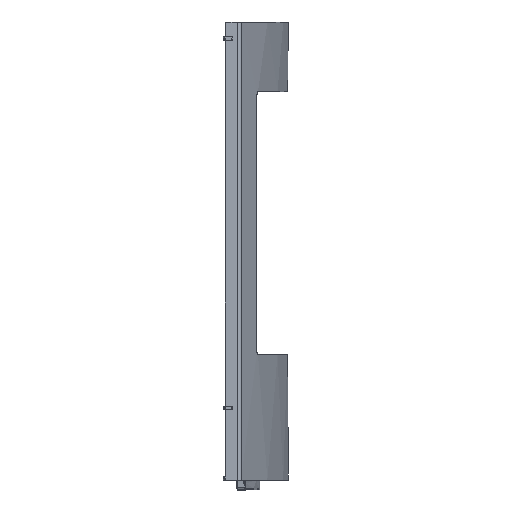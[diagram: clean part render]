
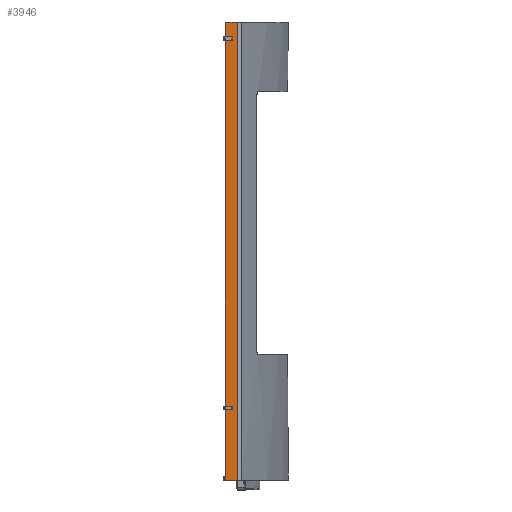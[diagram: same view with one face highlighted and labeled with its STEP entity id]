
A CAD part, left-side view. The second image highlights one B-rep face of the part: STEP entity #3946.
In plain terms, the highlighted planar face has unit normal (-1, 0, 0).
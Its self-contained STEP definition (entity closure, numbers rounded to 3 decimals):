
#188 = EDGE_CURVE ( 'NONE', #5165, #451, #13743, .T. ) ;
#415 = VECTOR ( 'NONE', #1103, 1000. ) ;
#438 = CARTESIAN_POINT ( 'NONE',  ( -333., -147., 88.55 ) ) ;
#451 = VERTEX_POINT ( 'NONE', #10259 ) ;
#475 = DIRECTION ( 'NONE',  ( 0., -1., 0. ) ) ;
#770 = DIRECTION ( 'NONE',  ( 0., 1., 0. ) ) ;
#939 = CARTESIAN_POINT ( 'NONE',  ( -333., -147., 550. ) ) ;
#1103 = DIRECTION ( 'NONE',  ( 0., 0., -1. ) ) ;
#1239 = CARTESIAN_POINT ( 'NONE',  ( -333., -155.25, 84.3 ) ) ;
#1406 = CARTESIAN_POINT ( 'NONE',  ( -333., -150., 550. ) ) ;
#1436 = EDGE_CURVE ( 'NONE', #10567, #1754, #12814, .T. ) ;
#1531 = LINE ( 'NONE', #11917, #13662 ) ;
#1605 = DIRECTION ( 'NONE',  ( 0., 1., 0. ) ) ;
#1717 = LINE ( 'NONE', #7807, #3161 ) ;
#1754 = VERTEX_POINT ( 'NONE', #10906 ) ;
#1886 = CARTESIAN_POINT ( 'NONE',  ( -333., -150., 547. ) ) ;
#1918 = VERTEX_POINT ( 'NONE', #2046 ) ;
#1936 = ORIENTED_EDGE ( 'NONE', *, *, #4998, .T. ) ;
#2046 = CARTESIAN_POINT ( 'NONE',  ( -333., -155.25, 532.25 ) ) ;
#2228 = VERTEX_POINT ( 'NONE', #12729 ) ;
#2342 = DIRECTION ( 'NONE',  ( 0., 0., 1. ) ) ;
#2397 = VECTOR ( 'NONE', #11450, 1000. ) ;
#2465 = VECTOR ( 'NONE', #1605, 1000. ) ;
#2813 = CARTESIAN_POINT ( 'NONE',  ( -333., -147., 88.55 ) ) ;
#2962 = EDGE_CURVE ( 'NONE', #1918, #9678, #14199, .T. ) ;
#3161 = VECTOR ( 'NONE', #11464, 1000. ) ;
#3342 = VECTOR ( 'NONE', #475, 1000. ) ;
#3473 = LINE ( 'NONE', #10351, #415 ) ;
#3609 = ORIENTED_EDGE ( 'NONE', *, *, #7296, .F. ) ;
#3660 = EDGE_CURVE ( 'NONE', #451, #9678, #12128, .T. ) ;
#3851 = FACE_OUTER_BOUND ( 'NONE', #6658, .T. ) ;
#3946 = ADVANCED_FACE ( 'NONE', ( #3851 ), #6481, .F. ) ;
#4176 = DIRECTION ( 'NONE',  ( 0., 0., -1. ) ) ;
#4221 = CARTESIAN_POINT ( 'NONE',  ( -333., -147., 550. ) ) ;
#4961 = EDGE_CURVE ( 'NONE', #6770, #2228, #3473, .T. ) ;
#4998 = EDGE_CURVE ( 'NONE', #8479, #9053, #8817, .T. ) ;
#5058 = LINE ( 'NONE', #4221, #6826 ) ;
#5165 = VERTEX_POINT ( 'NONE', #1406 ) ;
#5350 = VECTOR ( 'NONE', #10389, 1000. ) ;
#5736 = CARTESIAN_POINT ( 'NONE',  ( -333., -147., 0. ) ) ;
#5849 = ORIENTED_EDGE ( 'NONE', *, *, #188, .T. ) ;
#6010 = VECTOR ( 'NONE', #12054, 1000. ) ;
#6145 = AXIS2_PLACEMENT_3D ( 'NONE', #1886, #9916, #770 ) ;
#6191 = DIRECTION ( 'NONE',  ( 0., 0., 1. ) ) ;
#6481 = PLANE ( 'NONE',  #14667 ) ;
#6551 = ORIENTED_EDGE ( 'NONE', *, *, #9042, .T. ) ;
#6570 = VERTEX_POINT ( 'NONE', #2813 ) ;
#6658 = EDGE_LOOP ( 'NONE', ( #9961, #8210, #1936, #6551, #10322, #12602, #5849, #12078, #14217, #3609, #8156, #11428, #10832 ) ) ;
#6770 = VERTEX_POINT ( 'NONE', #11006 ) ;
#6826 = VECTOR ( 'NONE', #4176, 1000. ) ;
#7249 = CARTESIAN_POINT ( 'NONE',  ( -333., -147., 84.3 ) ) ;
#7296 = EDGE_CURVE ( 'NONE', #10445, #1918, #1531, .T. ) ;
#7313 = EDGE_CURVE ( 'NONE', #10502, #10445, #11885, .T. ) ;
#7405 = EDGE_CURVE ( 'NONE', #8479, #10567, #9764, .T. ) ;
#7807 = CARTESIAN_POINT ( 'NONE',  ( -333., -147., 550. ) ) ;
#8156 = ORIENTED_EDGE ( 'NONE', *, *, #7313, .F. ) ;
#8210 = ORIENTED_EDGE ( 'NONE', *, *, #7405, .F. ) ;
#8479 = VERTEX_POINT ( 'NONE', #7249 ) ;
#8675 = VECTOR ( 'NONE', #10404, 1000. ) ;
#8817 = LINE ( 'NONE', #9283, #2397 ) ;
#8915 = LINE ( 'NONE', #13614, #11956 ) ;
#8922 = DIRECTION ( 'NONE',  ( 0., 1., 0. ) ) ;
#9042 = EDGE_CURVE ( 'NONE', #9053, #2228, #8915, .T. ) ;
#9053 = VERTEX_POINT ( 'NONE', #5736 ) ;
#9119 = CARTESIAN_POINT ( 'NONE',  ( -333., -155.25, 528. ) ) ;
#9271 = CARTESIAN_POINT ( 'NONE',  ( -333., -155.25, 84.3 ) ) ;
#9283 = CARTESIAN_POINT ( 'NONE',  ( -333., -147., 550. ) ) ;
#9678 = VERTEX_POINT ( 'NONE', #12523 ) ;
#9764 = LINE ( 'NONE', #12117, #6010 ) ;
#9916 = DIRECTION ( 'NONE',  ( -1., 0., 0. ) ) ;
#9960 = EDGE_CURVE ( 'NONE', #1754, #6570, #10146, .T. ) ;
#9961 = ORIENTED_EDGE ( 'NONE', *, *, #1436, .F. ) ;
#10146 = LINE ( 'NONE', #438, #2465 ) ;
#10259 = CARTESIAN_POINT ( 'NONE',  ( -333., -147., 547. ) ) ;
#10322 = ORIENTED_EDGE ( 'NONE', *, *, #4961, .F. ) ;
#10323 = DIRECTION ( 'NONE',  ( 0., -1., 0. ) ) ;
#10337 = CARTESIAN_POINT ( 'NONE',  ( -333., -147., 550. ) ) ;
#10351 = CARTESIAN_POINT ( 'NONE',  ( -333., -161.907, 550. ) ) ;
#10389 = DIRECTION ( 'NONE',  ( 0., 0., -1. ) ) ;
#10404 = DIRECTION ( 'NONE',  ( 0., 1., 0. ) ) ;
#10445 = VERTEX_POINT ( 'NONE', #9119 ) ;
#10502 = VERTEX_POINT ( 'NONE', #11529 ) ;
#10567 = VERTEX_POINT ( 'NONE', #9271 ) ;
#10832 = ORIENTED_EDGE ( 'NONE', *, *, #9960, .F. ) ;
#10906 = CARTESIAN_POINT ( 'NONE',  ( -333., -155.25, 88.55 ) ) ;
#11006 = CARTESIAN_POINT ( 'NONE',  ( -333., -161.907, 550. ) ) ;
#11124 = EDGE_CURVE ( 'NONE', #5165, #6770, #1717, .T. ) ;
#11428 = ORIENTED_EDGE ( 'NONE', *, *, #13929, .T. ) ;
#11450 = DIRECTION ( 'NONE',  ( 0., 0., -1. ) ) ;
#11464 = DIRECTION ( 'NONE',  ( 0., -1., 0. ) ) ;
#11529 = CARTESIAN_POINT ( 'NONE',  ( -333., -147., 528. ) ) ;
#11753 = VECTOR ( 'NONE', #2342, 1000. ) ;
#11885 = LINE ( 'NONE', #13095, #3342 ) ;
#11917 = CARTESIAN_POINT ( 'NONE',  ( -333., -155.25, 532.25 ) ) ;
#11956 = VECTOR ( 'NONE', #10323, 1000. ) ;
#12054 = DIRECTION ( 'NONE',  ( 0., -1., 0. ) ) ;
#12078 = ORIENTED_EDGE ( 'NONE', *, *, #3660, .T. ) ;
#12117 = CARTESIAN_POINT ( 'NONE',  ( -333., -147., 84.3 ) ) ;
#12121 = DIRECTION ( 'NONE',  ( 1., 0., 0. ) ) ;
#12128 = LINE ( 'NONE', #10337, #5350 ) ;
#12373 = CARTESIAN_POINT ( 'NONE',  ( -333., -147., 532.25 ) ) ;
#12523 = CARTESIAN_POINT ( 'NONE',  ( -333., -147., 532.25 ) ) ;
#12602 = ORIENTED_EDGE ( 'NONE', *, *, #11124, .F. ) ;
#12729 = CARTESIAN_POINT ( 'NONE',  ( -333., -161.907, 0. ) ) ;
#12814 = LINE ( 'NONE', #1239, #11753 ) ;
#13095 = CARTESIAN_POINT ( 'NONE',  ( -333., -147., 528. ) ) ;
#13614 = CARTESIAN_POINT ( 'NONE',  ( -333., -147., 0. ) ) ;
#13662 = VECTOR ( 'NONE', #6191, 1000. ) ;
#13743 = CIRCLE ( 'NONE', #6145, 3. ) ;
#13929 = EDGE_CURVE ( 'NONE', #10502, #6570, #5058, .T. ) ;
#14199 = LINE ( 'NONE', #12373, #8675 ) ;
#14217 = ORIENTED_EDGE ( 'NONE', *, *, #2962, .F. ) ;
#14667 = AXIS2_PLACEMENT_3D ( 'NONE', #939, #12121, #8922 ) ;
